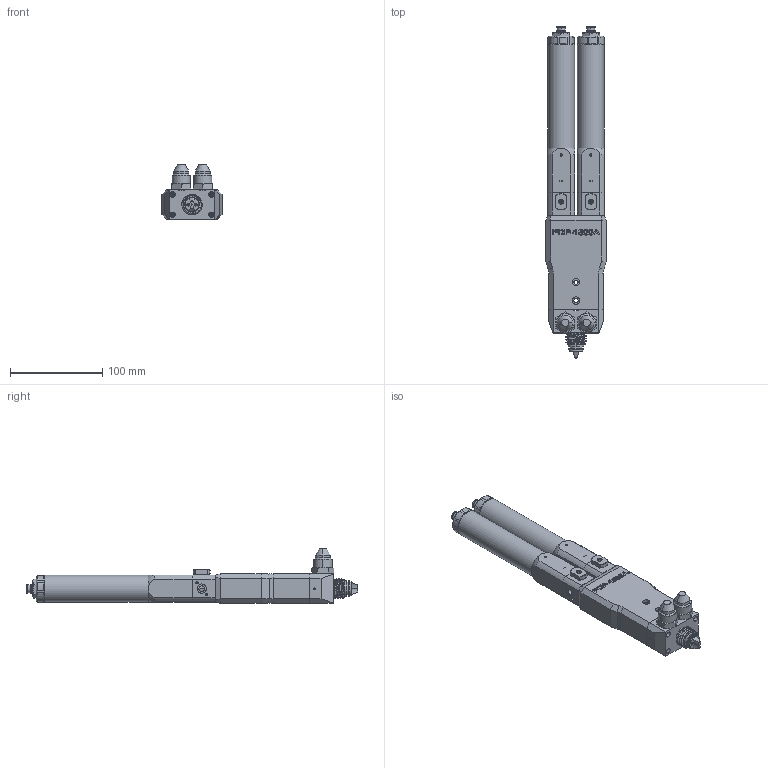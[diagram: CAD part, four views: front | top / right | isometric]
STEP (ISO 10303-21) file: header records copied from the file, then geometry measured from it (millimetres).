
FILE_DESCRIPTION (( 'STEP AP214' ), '1' );
FILE_NAME ('PDPM-1500CA.STEP', '2024-10-11T12:32:07', ( '' ), ( '' ), 'SwSTEP 2.0', 'SolidWorks 2024', '' );
FILE_SCHEMA (( 'AUTOMOTIVE_DESIGN' ));
Length unit declared in the file: millimetre
Products named in the file (1): PDPM-1500CA
Bounding box: 65 x 359 x 59.3 mm (x, y, z)
Volume: 530666 mm3; surface area: 127636.9 mm2
Topology: 12 solids, 12 shells, 1554 faces, 3926 edges, 2495 vertices
Faces by surface type: plane 757, cylinder 443, cone 321, bspline 13, torus 12, sphere 8
Full cylindrical faces by diameter (mm): 29 x2
Entity records: 53433 total; most frequent: CARTESIAN_POINT 15968, ORIENTED_EDGE 7776, DIRECTION 7772, EDGE_CURVE 3888, AXIS2_PLACEMENT_3D 2795, VERTEX_POINT 2495, LINE 2182, VECTOR 2182
